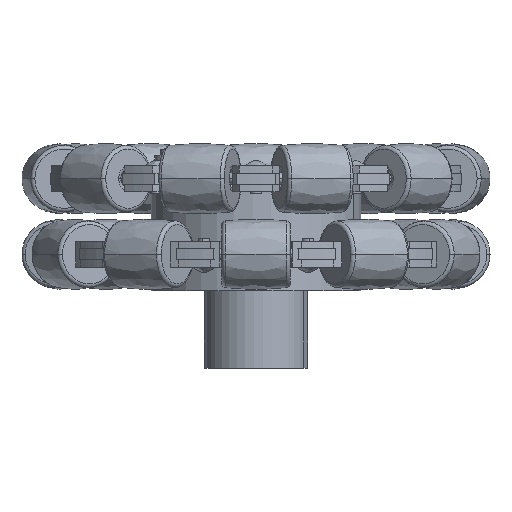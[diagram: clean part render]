
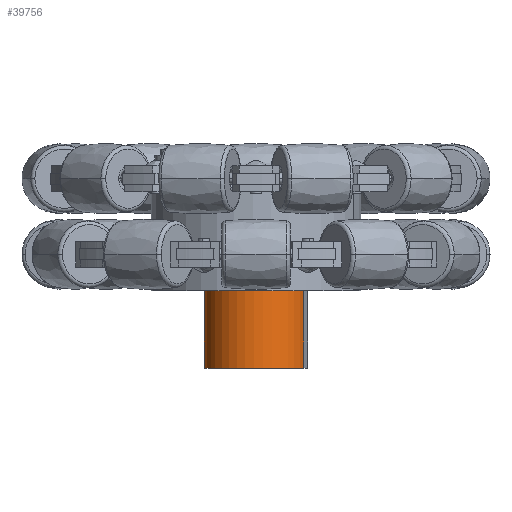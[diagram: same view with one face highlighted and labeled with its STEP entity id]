
A CAD part, front view. The second image highlights one B-rep face of the part: STEP entity #39756.
In plain terms, the highlighted cylindrical face has radius 14 mm (diameter 28 mm), a partial arc.
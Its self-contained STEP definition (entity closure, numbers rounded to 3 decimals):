
#39224 = PLANE('',#39225);
#39225 = AXIS2_PLACEMENT_3D('',#39226,#39227,#39228);
#39226 = CARTESIAN_POINT('',(0.,0.,-8.4));
#39227 = DIRECTION('',(0.,0.,1.));
#39228 = DIRECTION('',(-1.,0.,0.));
#39319 = VERTEX_POINT('',#39320);
#39320 = CARTESIAN_POINT('',(14.,0.,-8.4));
#39321 = VERTEX_POINT('',#39322);
#39322 = CARTESIAN_POINT('',(-14.,0.,-8.4));
#39337 = CYLINDRICAL_SURFACE('',#39338,14.);
#39338 = AXIS2_PLACEMENT_3D('',#39339,#39340,#39341);
#39339 = CARTESIAN_POINT('',(0.,0.,-30.87));
#39340 = DIRECTION('',(0.,0.,1.));
#39341 = DIRECTION('',(-1.,0.,0.));
#39349 = EDGE_CURVE('',#39319,#39321,#39350,.T.);
#39350 = SURFACE_CURVE('',#39351,(#39356,#39367),.PCURVE_S1.);
#39351 = CIRCLE('',#39352,14.);
#39352 = AXIS2_PLACEMENT_3D('',#39353,#39354,#39355);
#39353 = CARTESIAN_POINT('',(0.,0.,-8.4));
#39354 = DIRECTION('',(0.,0.,-1.));
#39355 = DIRECTION('',(1.,0.,0.));
#39356 = PCURVE('',#39224,#39357);
#39357 = DEFINITIONAL_REPRESENTATION('',(#39358),#39366);
#39358 = ( BOUNDED_CURVE() B_SPLINE_CURVE(2,(#39359,#39360,#39361,#39362
    ,#39363,#39364,#39365),.UNSPECIFIED.,.T.,.F.) 
B_SPLINE_CURVE_WITH_KNOTS((1,2,2,2,2,1),(-2.094,0.,
    2.094,4.189,6.283,8.378),
.UNSPECIFIED.) CURVE() GEOMETRIC_REPRESENTATION_ITEM() 
RATIONAL_B_SPLINE_CURVE((1.,0.5,1.,0.5,1.,0.5,1.)) REPRESENTATION_ITEM(
  '') );
#39359 = CARTESIAN_POINT('',(-14.,0.));
#39360 = CARTESIAN_POINT('',(-14.,24.249));
#39361 = CARTESIAN_POINT('',(7.,12.124));
#39362 = CARTESIAN_POINT('',(28.,0.));
#39363 = CARTESIAN_POINT('',(7.,-12.124));
#39364 = CARTESIAN_POINT('',(-14.,-24.249));
#39365 = CARTESIAN_POINT('',(-14.,0.));
#39366 = ( GEOMETRIC_REPRESENTATION_CONTEXT(2) 
PARAMETRIC_REPRESENTATION_CONTEXT() REPRESENTATION_CONTEXT('2D SPACE',''
  ) );
#39367 = PCURVE('',#39368,#39373);
#39368 = CYLINDRICAL_SURFACE('',#39369,14.);
#39369 = AXIS2_PLACEMENT_3D('',#39370,#39371,#39372);
#39370 = CARTESIAN_POINT('',(0.,0.,-30.87));
#39371 = DIRECTION('',(0.,0.,1.));
#39372 = DIRECTION('',(-1.,0.,0.));
#39373 = DEFINITIONAL_REPRESENTATION('',(#39374),#39378);
#39374 = LINE('',#39375,#39376);
#39375 = CARTESIAN_POINT('',(3.142,22.47));
#39376 = VECTOR('',#39377,1.);
#39377 = DIRECTION('',(-1.,0.));
#39378 = ( GEOMETRIC_REPRESENTATION_CONTEXT(2) 
PARAMETRIC_REPRESENTATION_CONTEXT() REPRESENTATION_CONTEXT('2D SPACE',''
  ) );
#39684 = VERTEX_POINT('',#39685);
#39685 = CARTESIAN_POINT('',(14.,0.,-29.4));
#39686 = VERTEX_POINT('',#39687);
#39687 = CARTESIAN_POINT('',(-14.,0.,-29.4));
#39702 = PLANE('',#39703);
#39703 = AXIS2_PLACEMENT_3D('',#39704,#39705,#39706);
#39704 = CARTESIAN_POINT('',(0.,0.,-29.4));
#39705 = DIRECTION('',(0.,0.,1.));
#39706 = DIRECTION('',(-1.,0.,0.));
#39714 = EDGE_CURVE('',#39321,#39686,#39715,.T.);
#39715 = SURFACE_CURVE('',#39716,(#39720,#39727),.PCURVE_S1.);
#39716 = LINE('',#39717,#39718);
#39717 = CARTESIAN_POINT('',(-14.,0.,-8.4));
#39718 = VECTOR('',#39719,1.);
#39719 = DIRECTION('',(0.,0.,-1.));
#39720 = PCURVE('',#39337,#39721);
#39721 = DEFINITIONAL_REPRESENTATION('',(#39722),#39726);
#39722 = LINE('',#39723,#39724);
#39723 = CARTESIAN_POINT('',(6.283,22.47));
#39724 = VECTOR('',#39725,1.);
#39725 = DIRECTION('',(0.,-1.));
#39726 = ( GEOMETRIC_REPRESENTATION_CONTEXT(2) 
PARAMETRIC_REPRESENTATION_CONTEXT() REPRESENTATION_CONTEXT('2D SPACE',''
  ) );
#39727 = PCURVE('',#39368,#39728);
#39728 = DEFINITIONAL_REPRESENTATION('',(#39729),#39733);
#39729 = LINE('',#39730,#39731);
#39730 = CARTESIAN_POINT('',(0.,22.47));
#39731 = VECTOR('',#39732,1.);
#39732 = DIRECTION('',(0.,-1.));
#39733 = ( GEOMETRIC_REPRESENTATION_CONTEXT(2) 
PARAMETRIC_REPRESENTATION_CONTEXT() REPRESENTATION_CONTEXT('2D SPACE',''
  ) );
#39736 = EDGE_CURVE('',#39319,#39684,#39737,.T.);
#39737 = SURFACE_CURVE('',#39738,(#39742,#39749),.PCURVE_S1.);
#39738 = LINE('',#39739,#39740);
#39739 = CARTESIAN_POINT('',(14.,0.,-8.4));
#39740 = VECTOR('',#39741,1.);
#39741 = DIRECTION('',(0.,0.,-1.));
#39742 = PCURVE('',#39337,#39743);
#39743 = DEFINITIONAL_REPRESENTATION('',(#39744),#39748);
#39744 = LINE('',#39745,#39746);
#39745 = CARTESIAN_POINT('',(3.142,22.47));
#39746 = VECTOR('',#39747,1.);
#39747 = DIRECTION('',(0.,-1.));
#39748 = ( GEOMETRIC_REPRESENTATION_CONTEXT(2) 
PARAMETRIC_REPRESENTATION_CONTEXT() REPRESENTATION_CONTEXT('2D SPACE',''
  ) );
#39749 = PCURVE('',#39368,#39750);
#39750 = DEFINITIONAL_REPRESENTATION('',(#39751),#39755);
#39751 = LINE('',#39752,#39753);
#39752 = CARTESIAN_POINT('',(3.142,22.47));
#39753 = VECTOR('',#39754,1.);
#39754 = DIRECTION('',(0.,-1.));
#39755 = ( GEOMETRIC_REPRESENTATION_CONTEXT(2) 
PARAMETRIC_REPRESENTATION_CONTEXT() REPRESENTATION_CONTEXT('2D SPACE',''
  ) );
#39756 = ADVANCED_FACE('',(#39757),#39368,.T.);
#39757 = FACE_BOUND('',#39758,.T.);
#39758 = EDGE_LOOP('',(#39759,#39760,#39761,#39787));
#39759 = ORIENTED_EDGE('',*,*,#39349,.T.);
#39760 = ORIENTED_EDGE('',*,*,#39714,.T.);
#39761 = ORIENTED_EDGE('',*,*,#39762,.F.);
#39762 = EDGE_CURVE('',#39684,#39686,#39763,.T.);
#39763 = SURFACE_CURVE('',#39764,(#39769,#39776),.PCURVE_S1.);
#39764 = CIRCLE('',#39765,14.);
#39765 = AXIS2_PLACEMENT_3D('',#39766,#39767,#39768);
#39766 = CARTESIAN_POINT('',(0.,0.,-29.4));
#39767 = DIRECTION('',(0.,0.,-1.));
#39768 = DIRECTION('',(1.,0.,0.));
#39769 = PCURVE('',#39368,#39770);
#39770 = DEFINITIONAL_REPRESENTATION('',(#39771),#39775);
#39771 = LINE('',#39772,#39773);
#39772 = CARTESIAN_POINT('',(3.142,1.47));
#39773 = VECTOR('',#39774,1.);
#39774 = DIRECTION('',(-1.,0.));
#39775 = ( GEOMETRIC_REPRESENTATION_CONTEXT(2) 
PARAMETRIC_REPRESENTATION_CONTEXT() REPRESENTATION_CONTEXT('2D SPACE',''
  ) );
#39776 = PCURVE('',#39702,#39777);
#39777 = DEFINITIONAL_REPRESENTATION('',(#39778),#39786);
#39778 = ( BOUNDED_CURVE() B_SPLINE_CURVE(2,(#39779,#39780,#39781,#39782
    ,#39783,#39784,#39785),.UNSPECIFIED.,.T.,.F.) 
B_SPLINE_CURVE_WITH_KNOTS((1,2,2,2,2,1),(-2.094,0.,
    2.094,4.189,6.283,8.378),
.UNSPECIFIED.) CURVE() GEOMETRIC_REPRESENTATION_ITEM() 
RATIONAL_B_SPLINE_CURVE((1.,0.5,1.,0.5,1.,0.5,1.)) REPRESENTATION_ITEM(
  '') );
#39779 = CARTESIAN_POINT('',(-14.,0.));
#39780 = CARTESIAN_POINT('',(-14.,24.249));
#39781 = CARTESIAN_POINT('',(7.,12.124));
#39782 = CARTESIAN_POINT('',(28.,0.));
#39783 = CARTESIAN_POINT('',(7.,-12.124));
#39784 = CARTESIAN_POINT('',(-14.,-24.249));
#39785 = CARTESIAN_POINT('',(-14.,0.));
#39786 = ( GEOMETRIC_REPRESENTATION_CONTEXT(2) 
PARAMETRIC_REPRESENTATION_CONTEXT() REPRESENTATION_CONTEXT('2D SPACE',''
  ) );
#39787 = ORIENTED_EDGE('',*,*,#39736,.F.);
